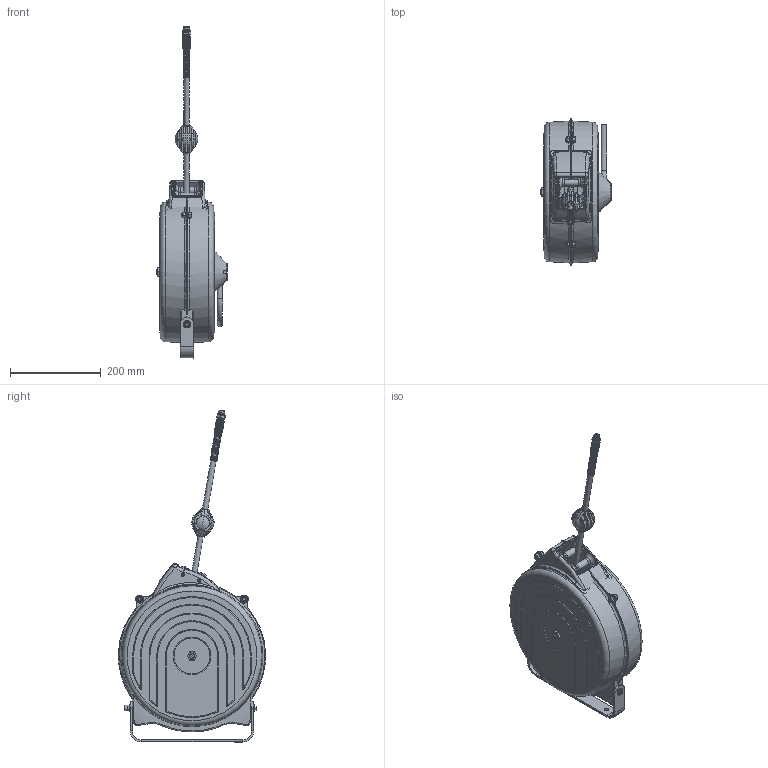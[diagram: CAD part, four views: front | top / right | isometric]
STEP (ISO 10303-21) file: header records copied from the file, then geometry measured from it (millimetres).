
FILE_DESCRIPTION (( 'STEP AP203' ), '1' );
FILE_NAME ('Mgp.STEP', '2020-04-20T10:19:28', ( '' ), ( '' ), 'SwSTEP 2.0', 'SolidWorks 2018', '' );
FILE_SCHEMA (( 'CONFIG_CONTROL_DESIGN' ));
Length unit declared in the file: millimetre
Products named in the file (1): Mgp
Bounding box: 155 x 323.6 x 730.12 mm (x, y, z)
Surface area: 544245.1 mm2 (no closed solid volume)
Topology: 0 solids, 51 shells, 701 faces, 2762 edges, 2027 vertices
Faces by surface type: plane 221, cylinder 138, bspline 126, torus 121, cone 81, sphere 14
Full cylindrical faces by diameter (mm): 6.4 x2, 6.5 x3, 7.4 x2, 7.5 x1, 8 x2, 8.4 x2, 9.8 x1, 10.5 x3, 11.8 x4, 12 x2, 13.157 x1, 15 x4, 16 x2, 17 x1, 286.948 x1, 287 x1
Entity records: 47632 total; most frequent: CARTESIAN_POINT 27640, ORIENTED_EDGE 4085, DIRECTION 3506, EDGE_CURVE 2615, VERTEX_POINT 1991, AXIS2_PLACEMENT_3D 1461, B_SPLINE_CURVE_WITH_KNOTS 1104, CIRCLE 885
